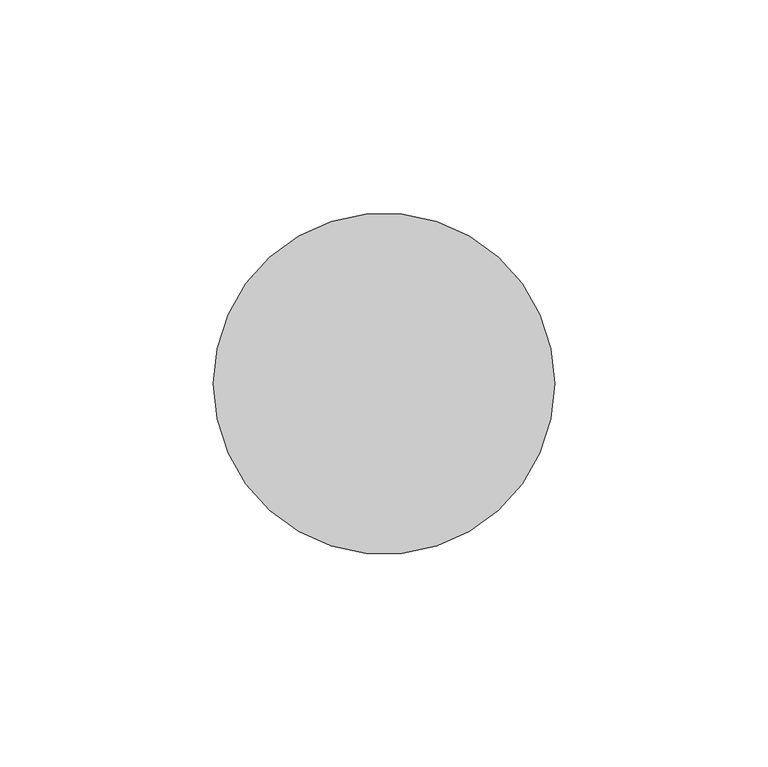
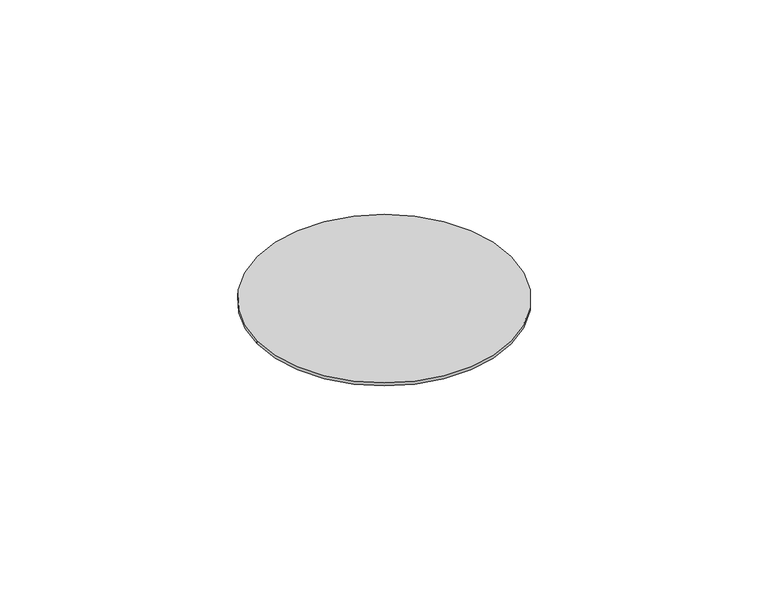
"""IFC4 building model written with IfcOpenShell, lengths in millimetres: proxy geometry, AQUAPANEL - Mechanical fixings : AQUAPANEL - Mechanical fixings."""

from ifc_helpers import new_model, si_unit, point, frame_2d, origin, origin_with_axes, place, context, project, spatial, circle_curve, trimmed, segment, composite_curve, outline, extrude, source, transform, mapped, element, save


def generic_models_15eb4975(model_context):
    return source(origin(), model_context, "Body", "SweptSolid", [
        extrude(outline(composite_curve([segment(trimmed(circle_curve(frame_2d((20318.6791212, 15774.7130206)), 40.0), [point((20278.6791212, 15774.7130206))], [point((20358.6791212, 15774.7130206))], False, "CARTESIAN"), True, "CONTINUOUS"), segment(trimmed(circle_curve(frame_2d((20318.6791212, 15774.7130206)), 40.0), [point((20358.6791212, 15774.7130206))], [point((20278.6791212, 15774.7130206))], False, "CARTESIAN"), True, "CONTINUOUS")], self_intersect=False)), origin_with_axes(), (0.0, 0.0, 1.0), 1.0),
    ])


if __name__ == "__main__":
    model = new_model("IFC4")
    model_context = context("Model", 3, world=origin())
    ifc_project = project(units=[si_unit("LENGTHUNIT", "METRE", prefix="MILLI")], contexts=[model_context])
    site = spatial("IfcSite", under=ifc_project)
    building = spatial("IfcBuilding", under=site)
    placement = place(None, origin())
    generic_models_shape = generic_models_15eb4975(model_context)
    element("IfcBuildingElementProxy", 1, Name="AQUAPANEL - Mechanical fixings : AQUAPANEL - Mechanical fixings", ObjectType="AQUAPANEL - Mechanical fixings : AQUAPANEL - Mechanical fixings", at=placement, inside=building, context=model_context, shape_type="MappedRepresentation", body=[
        mapped(generic_models_shape, transform((0.0, 0.0, 0.0), x_axis=(1.0, 0.0, 0.0), y_axis=(0.0, 1.0, 0.0), z_axis=(0.0, 0.0, 1.0))),
    ])
    save(model, "model.ifc")
